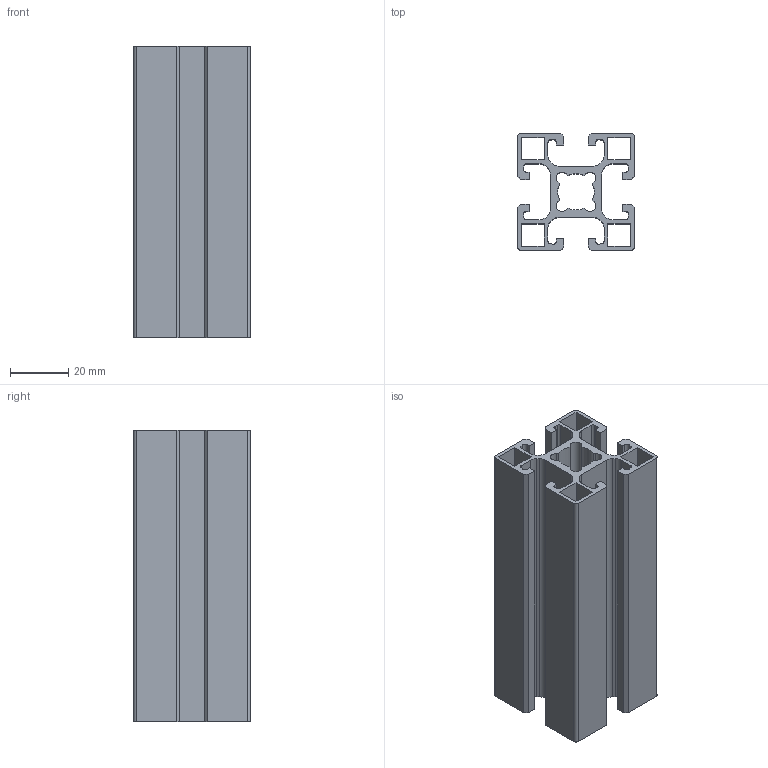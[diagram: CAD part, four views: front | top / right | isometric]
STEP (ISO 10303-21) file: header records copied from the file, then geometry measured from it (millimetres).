
FILE_DESCRIPTION((''),'2;1');
FILE_NAME('C:\Users\de2afr0\Desktop\New folder\MS40+ L 40x40.stp','2014-02-28T13:15:25',('de2afr0'),(''),'Autodesk Inventor 2011','Autodesk Inventor 2011','');
FILE_SCHEMA(('AUTOMOTIVE_DESIGN { 1 0 10303 214 1 1 1 1 }'));
Length unit declared in the file: millimetre
Products named in the file (1): MB01158401
Bounding box: 40 x 40 x 100 mm (x, y, z)
Volume: 48836.8 mm3; surface area: 52970.3 mm2
Topology: 1 solids, 1 shells, 138 faces, 408 edges, 272 vertices
Faces by surface type: plane 94, cylinder 44
Entity records: 4646 total; most frequent: CARTESIAN_POINT 819, ORIENTED_EDGE 816, DIRECTION 774, EDGE_CURVE 408, VECTOR 320, LINE 320, VERTEX_POINT 272, AXIS2_PLACEMENT_3D 227
